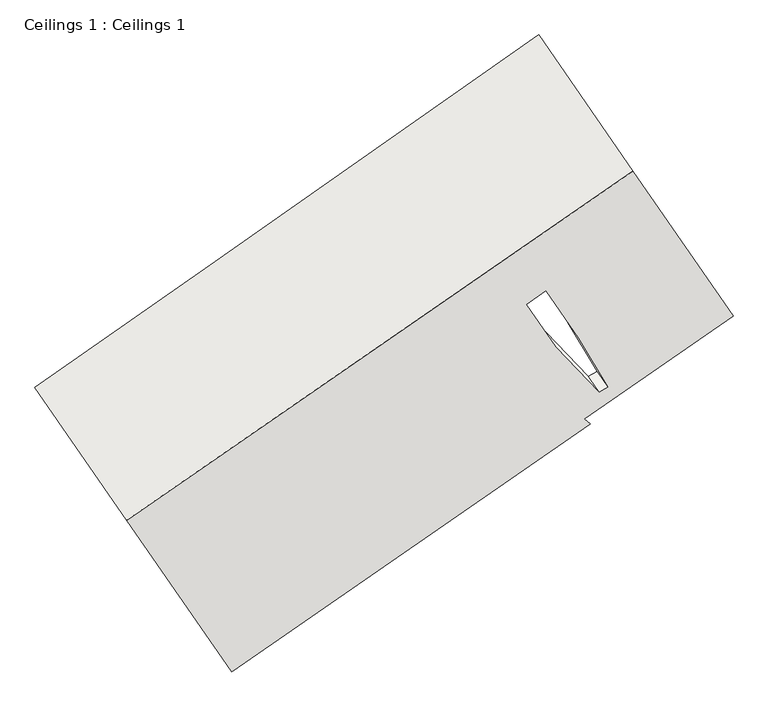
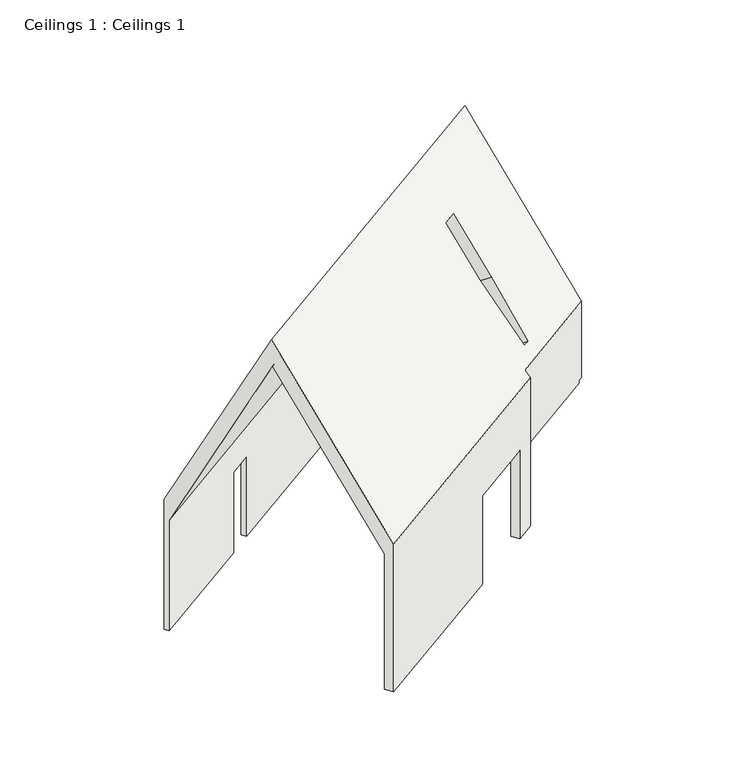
"""IFC4 building model written with IfcOpenShell, lengths in millimetres: covering geometry, Ceilings 1 : Ceilings 1."""

from ifc_helpers import new_model, si_unit, origin, place, context, project, spatial, faceted_brep, source, transform, mapped, element, save


def ceilings_1_ceilings_1_4e8246e3(model_context):
    return source(origin(), model_context, "Body", "Brep", [
        faceted_brep([(-12738.1903304, 9983.01549, 0.0), (-12818.6641363, 10099.3397011, 0.0), (-9500.1318235, 12423.0010423, 0.0), (-9406.6133946, 12287.820938, 0.0), (-8936.0493064, 4487.052543, 0.0), (-9086.8487138, 4705.031821, 0.0), (-4497.9394535, 7879.6675167, 0.0), (-4347.1400461, 7661.6882387, 0.0), (-2905.3810661, 16785.4135129, 0.0), (-8719.5210247, 12763.1556722, 0.0), (-8815.7297295, 12902.2245477, 0.0), (-3024.3547455, 16957.3889681, 0.0), (-2074.5754688, 9556.1656502, 0.0), (-1864.8346719, 9378.9623885, 0.0), (-2406.31104, 9004.3657014, 0.0), (-2557.1104473, 9222.3449794, 0.0), (-8936.0493064, 4487.052543, 4838.7860023), (-11005.9650444, 7479.0983738, 10465.8177905), (-12818.6641363, 10099.3397011, 4278.0340842), (-12738.1903304, 9983.01549, 3608.2246966), (-10982.0768501, 7444.5681894, 9602.8491369), (-9086.8487138, 4705.031821, 4450.7027597), (-4347.1400461, 7661.6882387, 2900.0), (-2406.31104, 9004.3657014, 2900.0), (-1864.8346719, 9378.9623885, 4852.4718276), (-9462.8525285, 12449.1042857, 4224.8173841), (-2875.9968985, 17061.2702509, 4120.3625571), (-2875.9968985, 17061.2702509, 2600.0), (-3024.3547455, 16957.3889681, 2600.0), (-8815.7297295, 12902.2245477, 2636.1740285), (-9462.8525285, 12449.1042857, 2636.1740285), (-9500.1318235, 12423.0010423, 2636.1740285), (745.9605505, 11507.4298439, 4450.7027597), (-1149.2675858, 14246.9662124, 9602.8491369), (-2905.3810661, 16785.4135129, 3608.2246966), (-2905.3810661, 16785.4135129, 2600.0), (745.9605505, 11507.4298439, 2600.0), (-2947.5537791, 12307.7823865, 8718.7103883), (-3328.4426998, 12044.2810847, 8718.7103883), (-2743.8164302, 11199.2087176, 7129.4135331), (-1899.9024684, 10315.6607674, 5263.0246534), (-1728.1989202, 10419.001128, 5243.379495), (-2305.1074252, 11379.1315727, 6972.2305892), (745.9605505, 11507.4298439, 2516.7104184), (-2074.5754688, 9556.1656502, 2516.7104184), (-2557.1104473, 9222.3449794, 2900.0), (-4497.9394535, 7879.6675167, 2900.0), (-9406.6133946, 12287.820938, 2636.1740285), (-8719.5210247, 12763.1556722, 2636.1740285), (-1019.8754605, 14372.3521249, 10465.8177905), (956.0523412, 11509.8734244, 5086.2824583), (956.0523412, 11509.8734244, 2600.0), (-1981.5829335, 9477.5992444, 5080.5968773), (-3117.7488958, 11739.724959, 8958.1553337), (-2736.6687445, 12002.9498386, 8958.3726595), (-2094.2223948, 11074.2990308, 7211.8928557), (-1517.3435424, 10114.2114486, 5483.0080625), (-1689.1296685, 10010.9904538, 5502.5593744), (-2533.1226301, 10894.6525973, 7368.8584742), (812.8203099, 11410.7846228, 2600.0), (812.8203099, 11410.7846228, 2516.7104184), (-1981.5829335, 9477.5992444, 2516.7104184)], [[[0, 1, 2, 3]], [[4, 5, 6, 7]], [[8, 9, 10, 11]], [[12, 13, 14, 15]], [[5, 4, 16, 17, 18, 1, 0, 19, 20, 21]], [[16, 4, 7, 22, 23, 14, 13, 24]], [[25, 26, 27, 28, 11, 10, 29, 30]], [[1, 18, 25, 30, 31, 2]], [[32, 33, 34, 35, 36]], [[34, 33, 20, 19]], [[33, 32, 21, 20], [37, 38, 39, 40, 41, 42]], [[21, 32, 36, 43, 44, 12, 15, 45, 46, 6, 5]], [[34, 19, 0, 3, 47, 48, 9, 8, 35]], [[26, 49, 50, 51, 27]], [[17, 49, 26, 25, 18]], [[49, 17, 16, 24, 52, 50], [53, 54, 55, 56, 57, 58]], [[46, 22, 7, 6]], [[23, 45, 15, 14]], [[22, 46, 45, 23]], [[48, 29, 10, 9]], [[31, 47, 3, 2]], [[29, 48, 47, 31, 30]], [[35, 28, 27, 51, 59, 36]], [[44, 43, 60, 61]], [[12, 44, 61, 52, 24, 13]], [[28, 35, 8, 11]], [[43, 36, 59, 60]], [[37, 54, 53, 38]], [[40, 57, 56, 41]], [[38, 53, 58, 39]], [[57, 40, 39, 58]], [[41, 56, 55, 42]], [[54, 37, 42, 55]], [[52, 61, 60, 59, 51, 50]]]),
    ])


if __name__ == "__main__":
    model = new_model("IFC4")
    model_context = context("Model", 3, world=origin())
    ifc_project = project(units=[si_unit("LENGTHUNIT", "METRE", prefix="MILLI")], contexts=[model_context])
    site = spatial("IfcSite", under=ifc_project)
    building = spatial("IfcBuilding", under=site)
    placement = place(None, origin())
    ceilings_1_ceilings_1_shape = ceilings_1_ceilings_1_4e8246e3(model_context)
    element("IfcCovering", 1, ObjectType="Ceilings 1 : Ceilings 1", at=placement, inside=building, context=model_context, shape_type="MappedRepresentation", body=[
        mapped(ceilings_1_ceilings_1_shape, transform((0.0, 0.0, 0.0), x_axis=(1.0, 0.0, 0.0), y_axis=(0.0, 1.0, 0.0), z_axis=(0.0, 0.0, 1.0))),
    ])
    save(model, "model.ifc")
